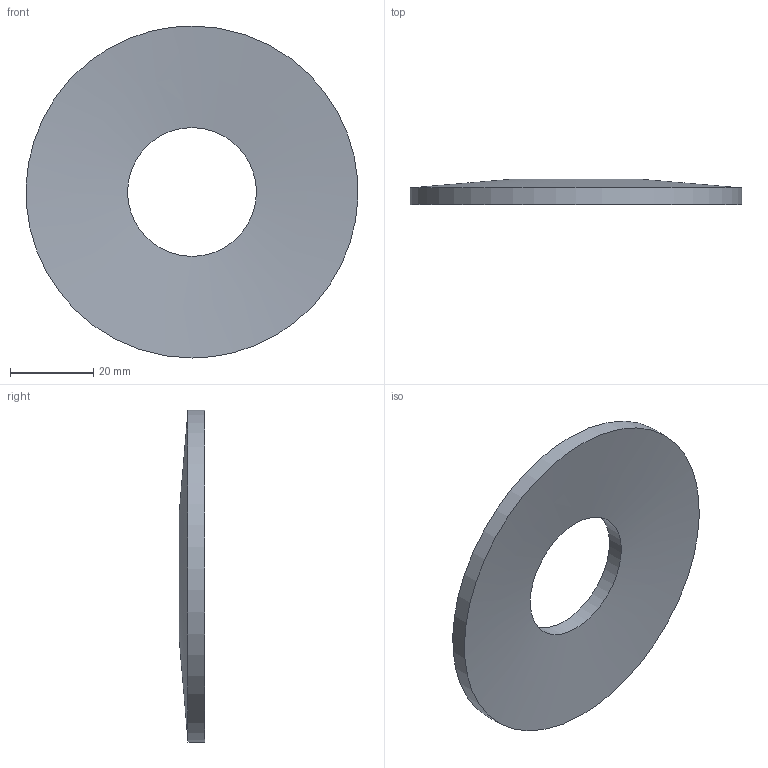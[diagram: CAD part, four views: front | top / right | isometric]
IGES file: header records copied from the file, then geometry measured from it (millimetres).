
Global section: file name: ST.0800.0310.0400; native system: Autodesk Inventor 2026; preprocessor: unknown; author: J. Iwanek; date: 20260918.103319; units: millimetre
Bounding box: 79.93 x 6.1 x 80 mm (x, y, z)
Volume: 17155.1 mm3; surface area: 9978 mm2
Topology: 1 solids, 1 shells, 4 faces, 12 edges, 8 vertices
Faces by surface type: bspline 4
